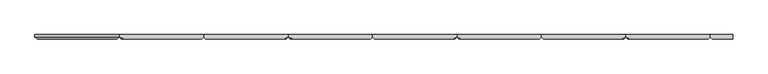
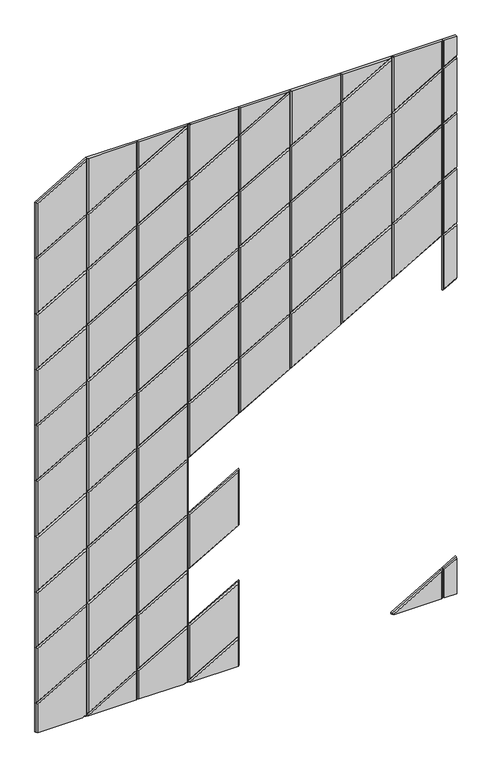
"""IFC4 building model written with IfcOpenShell, lengths in millimetres: proxy geometry, Wall_Cissu 6.3dm."""

from ifc_helpers import new_model, si_unit, origin, place, context, project, spatial, faceted_brep, source, transform, mapped, element, save


def generic_models_af10a0f3(model_context):
    return source(origin(), model_context, "Body", "Brep", [
        faceted_brep([(8762.0, 6.0, 0.0), (8697.7399825, 6.0, 0.0), (8697.7399825, 6.0, 145.7), (8762.0, 6.0, 182.8005384), (8697.7399825, 0.0, 0.0), (8697.7399825, 0.0, 145.7), (8762.0, 0.0, 182.8005384), (8703.7399825, -6.0, 0.0), (8762.0, -6.0, 0.0), (8762.0, -6.0, 175.8723351), (8703.7399825, -6.0, 142.2358984)], [[[0, 1, 2, 3]], [[1, 4, 5, 2]], [[6, 3, 2, 5]], [[7, 8, 9, 10]], [[4, 7, 10, 5]], [[9, 6, 5, 10]], [[7, 4, 1, 0, 8]], [[0, 3, 6, 9, 8]]]),
        faceted_brep([(8455.7724847, 6.0, 0.0), (8455.7724847, 6.0, 6.0), (8697.7399825, 6.0, 145.7), (8697.7399825, 6.0, 0.0), (8455.7724847, 0.0, 0.0), (8455.7724847, 0.0, 6.0), (8697.7399825, 0.0, 0.0), (8697.7399825, 0.0, 145.7), (8461.7724847, -6.0, 0.0), (8691.7399825, -6.0, 0.0), (8691.7399825, -6.0, 135.3076952), (8461.7724847, -6.0, 2.5358984)], [[[0, 1, 2, 3]], [[0, 4, 5, 1]], [[6, 3, 2, 7]], [[7, 2, 1, 5]], [[8, 9, 10, 11]], [[4, 8, 11, 5]], [[9, 6, 7, 10]], [[7, 5, 11, 10]], [[0, 3, 6, 9, 8, 4]]]),
        faceted_brep([(6762.0, 6.0, 1542.7), (7003.9674978, 6.0, 1682.4), (7003.9674978, 6.0, 1403.0), (6762.0, 6.0, 1263.3), (6762.0, 0.0, 1263.3), (7003.9674978, 0.0, 1403.0), (7003.9674978, 0.0, 1682.4), (6762.0, 0.0, 1542.7), (6997.9674978, -6.0, 1406.4641016), (6997.9674978, -6.0, 1672.0076952), (6768.0, -6.0, 1539.2358984), (6768.0, -6.0, 1273.6923048)], [[[0, 1, 2, 3]], [[4, 3, 2, 5]], [[5, 2, 1, 6]], [[6, 1, 0, 7]], [[8, 9, 10, 11]], [[7, 4, 11, 10]], [[4, 5, 8, 11]], [[5, 6, 9, 8]], [[6, 7, 10, 9]], [[0, 3, 4, 7]]]),
        faceted_brep([(6762.0, 6.0, 1263.3), (7003.9674978, 6.0, 1403.0), (7003.9674978, 6.0, 1123.6), (6762.0, 6.0, 983.9), (6762.0, 0.0, 983.9), (7003.9674978, 0.0, 1123.6), (7003.9674978, 0.0, 1403.0), (6762.0, 0.0, 1263.3), (6997.9674978, -6.0, 1127.0641016), (6997.9674978, -6.0, 1392.6076952), (6768.0, -6.0, 1259.8358984), (6768.0, -6.0, 994.2923048)], [[[0, 1, 2, 3]], [[4, 3, 2, 5]], [[5, 2, 1, 6]], [[6, 1, 0, 7]], [[8, 9, 10, 11]], [[7, 4, 11, 10]], [[4, 5, 8, 11]], [[5, 6, 9, 8]], [[6, 7, 10, 9]], [[0, 3, 4, 7]]]),
        faceted_brep([(7003.9674978, 6.0, 1123.6), (7245.9349956, 6.0, 1263.3), (7245.9349956, 6.0, 983.9), (7003.9674978, 6.0, 844.2), (7003.9674978, 0.0, 1123.6), (7003.9674978, 0.0, 844.2), (7245.9349956, 0.0, 983.9), (7245.9349956, 0.0, 1263.3), (7239.9349956, -6.0, 987.3641016), (7239.9349956, -6.0, 1252.9076952), (7009.9674978, -6.0, 1120.1358984), (7009.9674978, -6.0, 854.5923048)], [[[0, 1, 2, 3]], [[4, 0, 3, 5]], [[5, 3, 2, 6]], [[6, 2, 1, 7]], [[7, 1, 0, 4]], [[8, 9, 10, 11]], [[4, 5, 11, 10]], [[5, 6, 8, 11]], [[6, 7, 9, 8]], [[7, 4, 10, 9]]]),
        faceted_brep([(6762.0, 6.0, 983.9), (7003.9674978, 6.0, 1123.6), (7003.9674978, 6.0, 844.2), (6762.0, 6.0, 704.5), (6762.0, 0.0, 704.5), (7003.9674978, 0.0, 844.2), (7003.9674978, 0.0, 1123.6), (6762.0, 0.0, 983.9), (6997.9674978, -6.0, 847.6641016), (6997.9674978, -6.0, 1113.2076952), (6768.0, -6.0, 980.4358984), (6768.0, -6.0, 714.8923048)], [[[0, 1, 2, 3]], [[4, 3, 2, 5]], [[5, 2, 1, 6]], [[6, 1, 0, 7]], [[8, 9, 10, 11]], [[7, 4, 11, 10]], [[4, 5, 8, 11]], [[5, 6, 9, 8]], [[6, 7, 10, 9]], [[0, 3, 4, 7]]]),
        faceted_brep([(7245.9349956, 6.0, 704.5), (7487.9024935, 6.0, 844.2), (7487.9024935, 6.0, 564.8), (7245.9349956, 6.0, 425.1), (7245.9349956, 0.0, 704.5), (7245.9349956, 0.0, 425.1), (7487.9024935, 0.0, 564.8), (7487.9024935, 0.0, 844.2), (7481.9024935, -6.0, 568.2641016), (7481.9024935, -6.0, 833.8076952), (7251.9349956, -6.0, 701.0358984), (7251.9349956, -6.0, 435.4923048)], [[[0, 1, 2, 3]], [[4, 0, 3, 5]], [[5, 3, 2, 6]], [[6, 2, 1, 7]], [[7, 1, 0, 4]], [[8, 9, 10, 11]], [[4, 5, 11, 10]], [[5, 6, 8, 11]], [[6, 7, 9, 8]], [[7, 4, 10, 9]]]),
        faceted_brep([(7003.9674978, 6.0, 564.8), (7245.9349956, 6.0, 704.5), (7245.9349956, 6.0, 425.1), (7003.9674978, 6.0, 285.4), (7003.9674978, 0.0, 564.8), (7003.9674978, 0.0, 285.4), (7245.9349956, 0.0, 425.1), (7245.9349956, 0.0, 704.5), (7239.9349956, -6.0, 428.5641016), (7239.9349956, -6.0, 694.1076952), (7009.9674978, -6.0, 561.3358984), (7009.9674978, -6.0, 295.7923048)], [[[0, 1, 2, 3]], [[4, 0, 3, 5]], [[5, 3, 2, 6]], [[6, 2, 1, 7]], [[7, 1, 0, 4]], [[8, 9, 10, 11]], [[4, 5, 11, 10]], [[5, 6, 8, 11]], [[6, 7, 9, 8]], [[7, 4, 10, 9]]]),
        faceted_brep([(6762.0, 6.0, 425.1), (7003.9674978, 6.0, 564.8), (7003.9674978, 6.0, 285.4), (6762.0, 6.0, 145.7), (6762.0, 0.0, 145.7), (7003.9674978, 0.0, 285.4), (7003.9674978, 0.0, 564.8), (6762.0, 0.0, 425.1), (6997.9674978, -6.0, 288.8641016), (6997.9674978, -6.0, 554.4076952), (6768.0, -6.0, 421.6358984), (6768.0, -6.0, 156.0923048)], [[[0, 1, 2, 3]], [[4, 3, 2, 5]], [[5, 2, 1, 6]], [[6, 1, 0, 7]], [[8, 9, 10, 11]], [[7, 4, 11, 10]], [[4, 5, 8, 11]], [[5, 6, 9, 8]], [[6, 7, 10, 9]], [[0, 3, 4, 7]]]),
        faceted_brep([(7003.9674978, 6.0, 844.2), (7245.9349956, 6.0, 983.9), (7245.9349956, 6.0, 704.5), (7003.9674978, 6.0, 564.8), (7003.9674978, 0.0, 844.2), (7003.9674978, 0.0, 564.8), (7245.9349956, 0.0, 704.5), (7245.9349956, 0.0, 983.9), (7239.9349956, -6.0, 707.9641016), (7239.9349956, -6.0, 973.5076952), (7009.9674978, -6.0, 840.7358984), (7009.9674978, -6.0, 575.1923048)], [[[0, 1, 2, 3]], [[4, 0, 3, 5]], [[5, 3, 2, 6]], [[6, 2, 1, 7]], [[7, 1, 0, 4]], [[8, 9, 10, 11]], [[4, 5, 11, 10]], [[5, 6, 8, 11]], [[6, 7, 9, 8]], [[7, 4, 10, 9]]]),
        faceted_brep([(6762.0, 6.0, 704.5), (7003.9674978, 6.0, 844.2), (7003.9674978, 6.0, 564.8), (6762.0, 6.0, 425.1), (6762.0, 0.0, 425.1), (7003.9674978, 0.0, 564.8), (7003.9674978, 0.0, 844.2), (6762.0, 0.0, 704.5), (6997.9674978, -6.0, 568.2641016), (6997.9674978, -6.0, 833.8076952), (6768.0, -6.0, 701.0358984), (6768.0, -6.0, 435.4923048)], [[[0, 1, 2, 3]], [[4, 3, 2, 5]], [[5, 2, 1, 6]], [[6, 1, 0, 7]], [[8, 9, 10, 11]], [[7, 4, 11, 10]], [[4, 5, 8, 11]], [[5, 6, 9, 8]], [[6, 7, 10, 9]], [[0, 3, 4, 7]]]),
        faceted_brep([(7487.9024935, 6.0, 285.4), (7729.8699913, 6.0, 425.1), (7729.8699913, 6.0, 145.7), (7487.9024935, 6.0, 6.0), (7487.9024935, 0.0, 285.4), (7487.9024935, 0.0, 6.0), (7729.8699913, 0.0, 145.7), (7729.8699913, 0.0, 425.1), (7723.8699913, -6.0, 149.1641016), (7723.8699913, -6.0, 414.7076952), (7493.9024935, -6.0, 281.9358984), (7493.9024935, -6.0, 16.3923048)], [[[0, 1, 2, 3]], [[4, 0, 3, 5]], [[5, 3, 2, 6]], [[6, 2, 1, 7]], [[7, 1, 0, 4]], [[8, 9, 10, 11]], [[4, 5, 11, 10]], [[5, 6, 8, 11]], [[6, 7, 9, 8]], [[7, 4, 10, 9]]]),
        faceted_brep([(7245.9349956, 6.0, 0.0), (7245.9349956, 6.0, 145.7), (7487.9024935, 6.0, 285.4), (7487.9024935, 6.0, 6.0), (7477.5101886, 6.0, 0.0), (7245.9349956, 0.0, 0.0), (7245.9349956, 0.0, 145.7), (7477.5101886, 0.0, 0.0), (7487.9024935, 0.0, 6.0), (7487.9024935, 0.0, 285.4), (7251.9349956, -6.0, 0.0), (7465.5101886, -6.0, 0.0), (7481.9024935, -6.0, 9.4641016), (7481.9024935, -6.0, 275.0076952), (7251.9349956, -6.0, 142.2358984)], [[[0, 1, 2, 3, 4]], [[0, 5, 6, 1]], [[7, 4, 3, 8]], [[8, 3, 2, 9]], [[9, 2, 1, 6]], [[10, 11, 12, 13, 14]], [[5, 10, 14, 6]], [[11, 7, 8, 12]], [[8, 9, 13, 12]], [[9, 6, 14, 13]], [[0, 4, 7, 11, 10, 5]]]),
        faceted_brep([(7003.9674978, 6.0, 0.0), (7003.9674978, 6.0, 6.0), (7245.9349956, 6.0, 145.7), (7245.9349956, 6.0, 0.0), (7003.9674978, 0.0, 0.0), (7003.9674978, 0.0, 6.0), (7245.9349956, 0.0, 0.0), (7245.9349956, 0.0, 145.7), (7009.9674978, -6.0, 0.0), (7239.9349956, -6.0, 0.0), (7239.9349956, -6.0, 135.3076952), (7009.9674978, -6.0, 2.5358984)], [[[0, 1, 2, 3]], [[0, 4, 5, 1]], [[6, 3, 2, 7]], [[7, 2, 1, 5]], [[8, 9, 10, 11]], [[4, 8, 11, 5]], [[9, 6, 7, 10]], [[7, 5, 11, 10]], [[0, 3, 6, 9, 8, 4]]]),
        faceted_brep([(6993.575193, 6.0, 0.0), (7003.9674978, 6.0, 6.0), (7003.9674978, 6.0, 0.0), (7003.9674978, 0.0, 0.0), (7003.9674978, 0.0, 6.0), (6993.575193, 0.0, 0.0), (7000.5033962, -3.4641016, 0.0)], [[[0, 1, 2]], [[3, 2, 1, 4]], [[0, 5, 4, 1]], [[6, 3, 4]], [[5, 6, 4]], [[0, 2, 3, 6, 5]]]),
        faceted_brep([(7245.9349956, 6.0, 425.1), (7487.9024935, 6.0, 564.8), (7487.9024935, 6.0, 285.4), (7245.9349956, 6.0, 145.7), (7245.9349956, 0.0, 425.1), (7245.9349956, 0.0, 145.7), (7487.9024935, 0.0, 285.4), (7487.9024935, 0.0, 564.8), (7481.9024935, -6.0, 288.8641016), (7481.9024935, -6.0, 554.4076952), (7251.9349956, -6.0, 421.6358984), (7251.9349956, -6.0, 156.0923048)], [[[0, 1, 2, 3]], [[4, 0, 3, 5]], [[5, 3, 2, 6]], [[6, 2, 1, 7]], [[7, 1, 0, 4]], [[8, 9, 10, 11]], [[4, 5, 11, 10]], [[5, 6, 8, 11]], [[6, 7, 9, 8]], [[7, 4, 10, 9]]]),
        faceted_brep([(7003.9674978, 6.0, 285.4), (7245.9349956, 6.0, 425.1), (7245.9349956, 6.0, 145.7), (7003.9674978, 6.0, 6.0), (7003.9674978, 0.0, 285.4), (7003.9674978, 0.0, 6.0), (7245.9349956, 0.0, 145.7), (7245.9349956, 0.0, 425.1), (7239.9349956, -6.0, 149.1641016), (7239.9349956, -6.0, 414.7076952), (7009.9674978, -6.0, 281.9358984), (7009.9674978, -6.0, 16.3923048)], [[[0, 1, 2, 3]], [[4, 0, 3, 5]], [[5, 3, 2, 6]], [[6, 2, 1, 7]], [[7, 1, 0, 4]], [[8, 9, 10, 11]], [[4, 5, 11, 10]], [[5, 6, 8, 11]], [[6, 7, 9, 8]], [[7, 4, 10, 9]]]),
        faceted_brep([(6762.0, 6.0, 0.0), (6762.0, 6.0, 145.7), (7003.9674978, 6.0, 285.4), (7003.9674978, 6.0, 6.0), (6993.575193, 6.0, 0.0), (6993.575193, 0.0, 0.0), (7003.9674978, 0.0, 6.0), (7003.9674978, 0.0, 285.4), (6762.0, 0.0, 145.7), (6768.0, -6.0, 0.0), (6981.575193, -6.0, 0.0), (6997.9674978, -6.0, 9.4641016), (6997.9674978, -6.0, 275.0076952), (6768.0, -6.0, 142.2358984), (6762.0, 0.0, 0.0)], [[[0, 1, 2, 3, 4]], [[5, 4, 3, 6]], [[6, 3, 2, 7]], [[7, 2, 1, 8]], [[9, 10, 11, 12, 13]], [[14, 9, 13, 8]], [[10, 5, 6, 11]], [[6, 7, 12, 11]], [[7, 8, 13, 12]], [[9, 14, 0, 4, 5, 10]], [[1, 0, 14, 8]]]),
        faceted_brep([(7487.9024935, 6.0, 0.0), (7487.9024935, 6.0, 6.0), (7729.8699913, 6.0, 145.7), (7729.8699913, 6.0, 0.0), (7487.9024935, 0.0, 0.0), (7487.9024935, 0.0, 6.0), (7729.8699913, 0.0, 0.0), (7729.8699913, 0.0, 145.7), (7493.9024935, -6.0, 0.0), (7723.8699913, -6.0, 0.0), (7723.8699913, -6.0, 135.3076952), (7493.9024935, -6.0, 2.5358984)], [[[0, 1, 2, 3]], [[0, 4, 5, 1]], [[6, 3, 2, 7]], [[7, 2, 1, 5]], [[8, 9, 10, 11]], [[4, 8, 11, 5]], [[9, 6, 7, 10]], [[7, 5, 11, 10]], [[0, 3, 6, 9, 8, 4]]]),
        faceted_brep([(7477.5101886, 6.0, 0.0), (7487.9024935, 6.0, 6.0), (7487.9024935, 6.0, 0.0), (7487.9024935, 0.0, 0.0), (7487.9024935, 0.0, 6.0), (7477.5101886, 0.0, 0.0), (7484.4383918, -3.4641016, 0.0)], [[[0, 1, 2]], [[3, 2, 1, 4]], [[0, 5, 4, 1]], [[6, 3, 4]], [[5, 6, 4]], [[0, 2, 3, 6, 5]]]),
        faceted_brep([(8762.0, 6.0, 2697.4005384), (8697.7399825, 6.0, 2660.3), (8697.7399825, 6.0, 2800.0), (8762.0, 6.0, 2800.0), (8762.0, 0.0, 2697.4005384), (8697.7399825, 0.0, 2660.3), (8762.0, -6.0, 2704.3287416), (8703.7399825, -6.0, 2670.6923048), (8703.7399825, -6.0, 2800.0), (8762.0, -6.0, 2800.0), (8697.7399825, 0.0, 2800.0)], [[[0, 1, 2, 3]], [[0, 4, 5, 1]], [[4, 6, 7, 5]], [[8, 9, 3, 2, 10]], [[2, 1, 5, 10]], [[8, 7, 6, 9]], [[10, 5, 7, 8]], [[0, 3, 9, 6, 4]]]),
        faceted_brep([(8455.7724847, 0.0, 2800.0), (8455.7724847, 6.0, 2800.0), (8455.7724847, 6.0, 2520.6), (8455.7724847, 0.0, 2520.6), (8697.7399825, 6.0, 2660.3), (8697.7399825, 0.0, 2660.3), (8461.7724847, -6.0, 2530.9923048), (8461.7724847, -6.0, 2796.5358984), (8691.7399825, -6.0, 2663.7641016), (8697.7399825, 6.0, 2800.0), (8697.7399825, 0.0, 2800.0), (8467.7724847, -6.0, 2800.0), (8691.7399825, -6.0, 2800.0)], [[[0, 1, 2, 3]], [[3, 2, 4, 5]], [[0, 3, 6, 7]], [[3, 5, 8, 6]], [[1, 9, 4, 2]], [[10, 5, 4, 9]], [[11, 7, 6, 8, 12]], [[12, 8, 5, 10]], [[0, 7, 11]], [[1, 0, 11, 12, 10, 9]]]),
        faceted_brep([(8213.8049869, 6.0, 2660.3), (8455.7724847, 6.0, 2800.0), (8455.7724847, 6.0, 2520.6), (8213.8049869, 6.0, 2380.9), (8213.8049869, 0.0, 2660.3), (8213.8049869, 0.0, 2380.9), (8455.7724847, 0.0, 2520.6), (8455.7724847, 0.0, 2800.0), (8449.7724847, -6.0, 2524.0641016), (8449.7724847, -6.0, 2789.6076952), (8219.8049869, -6.0, 2656.8358984), (8219.8049869, -6.0, 2391.2923048)], [[[0, 1, 2, 3]], [[4, 0, 3, 5]], [[5, 3, 2, 6]], [[6, 2, 1, 7]], [[7, 1, 0, 4]], [[8, 9, 10, 11]], [[4, 5, 11, 10]], [[5, 6, 8, 11]], [[6, 7, 9, 8]], [[7, 4, 10, 9]]]),
        faceted_brep([(8213.8049869, 0.0, 2660.3), (8213.8049869, 6.0, 2660.3), (8455.7724847, 6.0, 2800.0), (8455.7724847, 0.0, 2800.0), (8213.8049869, 6.0, 2800.0), (8213.8049869, 0.0, 2800.0), (8219.8049869, -6.0, 2800.0), (8219.8049869, -6.0, 2670.6923048), (8443.7724847, -6.0, 2800.0)], [[[0, 1, 2, 3]], [[4, 2, 1]], [[4, 1, 0, 5]], [[6, 7, 8]], [[5, 0, 7, 6]], [[8, 7, 0, 3]], [[4, 5, 6, 8, 3, 2]]]),
        faceted_brep([(8762.0, 6.0, 2138.6005384), (8697.7399825, 6.0, 2101.5), (8697.7399825, 6.0, 2380.9), (8762.0, 6.0, 2418.0005384), (8697.7399825, 0.0, 2380.9), (8697.7399825, 0.0, 2101.5), (8762.0, 0.0, 2138.6005384), (8762.0, 0.0, 2418.0005384), (8762.0, -6.0, 2145.5287416), (8762.0, -6.0, 2411.0723351), (8703.7399825, -6.0, 2377.4358984), (8703.7399825, -6.0, 2111.8923048)], [[[0, 1, 2, 3]], [[4, 2, 1, 5]], [[0, 6, 5, 1]], [[7, 3, 2, 4]], [[8, 9, 10, 11]], [[4, 5, 11, 10]], [[6, 8, 11, 5]], [[9, 7, 4, 10]], [[0, 3, 7, 9, 8, 6]]]),
        faceted_brep([(8455.7724847, 6.0, 2241.2), (8697.7399825, 6.0, 2380.9), (8697.7399825, 6.0, 2101.5), (8455.7724847, 6.0, 1961.8), (8455.7724847, 0.0, 2241.2), (8455.7724847, 0.0, 1961.8), (8697.7399825, 0.0, 2101.5), (8697.7399825, 0.0, 2380.9), (8691.7399825, -6.0, 2104.9641016), (8691.7399825, -6.0, 2370.5076952), (8461.7724847, -6.0, 2237.7358984), (8461.7724847, -6.0, 1972.1923048)], [[[0, 1, 2, 3]], [[4, 0, 3, 5]], [[5, 3, 2, 6]], [[6, 2, 1, 7]], [[7, 1, 0, 4]], [[8, 9, 10, 11]], [[4, 5, 11, 10]], [[5, 6, 8, 11]], [[6, 7, 9, 8]], [[7, 4, 10, 9]]]),
        faceted_brep([(8762.0, 6.0, 2418.0005384), (8697.7399825, 6.0, 2380.9), (8697.7399825, 6.0, 2660.3), (8762.0, 6.0, 2697.4005384), (8697.7399825, 0.0, 2660.3), (8697.7399825, 0.0, 2380.9), (8762.0, 0.0, 2418.0005384), (8762.0, 0.0, 2697.4005384), (8762.0, -6.0, 2424.9287416), (8762.0, -6.0, 2690.4723351), (8703.7399825, -6.0, 2656.8358984), (8703.7399825, -6.0, 2391.2923048)], [[[0, 1, 2, 3]], [[4, 2, 1, 5]], [[0, 6, 5, 1]], [[7, 3, 2, 4]], [[8, 9, 10, 11]], [[4, 5, 11, 10]], [[6, 8, 11, 5]], [[9, 7, 4, 10]], [[0, 3, 7, 9, 8, 6]]]),
        faceted_brep([(8455.7724847, 6.0, 2520.6), (8697.7399825, 6.0, 2660.3), (8697.7399825, 6.0, 2380.9), (8455.7724847, 6.0, 2241.2), (8455.7724847, 0.0, 2520.6), (8455.7724847, 0.0, 2241.2), (8697.7399825, 0.0, 2380.9), (8697.7399825, 0.0, 2660.3), (8691.7399825, -6.0, 2384.3641016), (8691.7399825, -6.0, 2649.9076952), (8461.7724847, -6.0, 2517.1358984), (8461.7724847, -6.0, 2251.5923048)], [[[0, 1, 2, 3]], [[4, 0, 3, 5]], [[5, 3, 2, 6]], [[6, 2, 1, 7]], [[7, 1, 0, 4]], [[8, 9, 10, 11]], [[4, 5, 11, 10]], [[5, 6, 8, 11]], [[6, 7, 9, 8]], [[7, 4, 10, 9]]]),
        faceted_brep([(8762.0, 6.0, 1579.8005384), (8697.7399825, 6.0, 1542.7), (8697.7399825, 6.0, 1822.1), (8762.0, 6.0, 1859.2005384), (8697.7399825, 0.0, 1822.1), (8697.7399825, 0.0, 1542.7), (8762.0, 0.0, 1579.8005384), (8762.0, 0.0, 1859.2005384), (8762.0, -6.0, 1586.7287416), (8762.0, -6.0, 1852.2723351), (8703.7399825, -6.0, 1818.6358984), (8703.7399825, -6.0, 1553.0923048)], [[[0, 1, 2, 3]], [[4, 2, 1, 5]], [[0, 6, 5, 1]], [[7, 3, 2, 4]], [[8, 9, 10, 11]], [[4, 5, 11, 10]], [[6, 8, 11, 5]], [[9, 7, 4, 10]], [[0, 3, 7, 9, 8, 6]]]),
        faceted_brep([(8762.0, 6.0, 1859.2005384), (8697.7399825, 6.0, 1822.1), (8697.7399825, 6.0, 2101.5), (8762.0, 6.0, 2138.6005384), (8697.7399825, 0.0, 2101.5), (8697.7399825, 0.0, 1822.1), (8762.0, 0.0, 1859.2005384), (8762.0, 0.0, 2138.6005384), (8762.0, -6.0, 1866.1287416), (8762.0, -6.0, 2131.6723351), (8703.7399825, -6.0, 2098.0358984), (8703.7399825, -6.0, 1832.4923048)], [[[0, 1, 2, 3]], [[4, 2, 1, 5]], [[0, 6, 5, 1]], [[7, 3, 2, 4]], [[8, 9, 10, 11]], [[4, 5, 11, 10]], [[6, 8, 11, 5]], [[9, 7, 4, 10]], [[0, 3, 7, 9, 8, 6]]]),
        faceted_brep([(6762.0, 6.0, 2660.3), (7003.9674978, 6.0, 2800.0), (7003.9674978, 6.0, 2520.6), (6762.0, 6.0, 2380.9), (6762.0, 0.0, 2380.9), (7003.9674978, 0.0, 2520.6), (7003.9674978, 0.0, 2800.0), (6762.0, 0.0, 2660.3), (6997.9674978, -6.0, 2524.0641016), (6997.9674978, -6.0, 2789.6076952), (6768.0, -6.0, 2656.8358984), (6768.0, -6.0, 2391.2923048)], [[[0, 1, 2, 3]], [[4, 3, 2, 5]], [[5, 2, 1, 6]], [[6, 1, 0, 7]], [[8, 9, 10, 11]], [[7, 4, 11, 10]], [[4, 5, 8, 11]], [[5, 6, 9, 8]], [[6, 7, 10, 9]], [[0, 3, 4, 7]]]),
        faceted_brep([(7003.9674978, 0.0, 2800.0), (7003.9674978, 6.0, 2800.0), (7003.9674978, 6.0, 2520.6), (7003.9674978, 0.0, 2520.6), (7245.9349956, 6.0, 2660.3), (7245.9349956, 0.0, 2660.3), (7009.9674978, -6.0, 2530.9923048), (7009.9674978, -6.0, 2796.5358984), (7239.9349956, -6.0, 2663.7641016), (7245.9349956, 6.0, 2800.0), (7245.9349956, 0.0, 2800.0), (7015.9674978, -6.0, 2800.0), (7239.9349956, -6.0, 2800.0)], [[[0, 1, 2, 3]], [[3, 2, 4, 5]], [[0, 3, 6, 7]], [[3, 5, 8, 6]], [[1, 9, 4, 2]], [[10, 5, 4, 9]], [[11, 7, 6, 8, 12]], [[12, 8, 5, 10]], [[0, 7, 11]], [[1, 0, 11, 12, 10, 9]]]),
        faceted_brep([(7245.9349956, 0.0, 2660.3), (7245.9349956, 6.0, 2660.3), (7487.9024935, 6.0, 2800.0), (7487.9024935, 0.0, 2800.0), (7245.9349956, 6.0, 2800.0), (7245.9349956, 0.0, 2800.0), (7251.9349956, -6.0, 2800.0), (7251.9349956, -6.0, 2670.6923048), (7475.9024935, -6.0, 2800.0)], [[[0, 1, 2, 3]], [[4, 2, 1]], [[4, 1, 0, 5]], [[6, 7, 8]], [[5, 0, 7, 6]], [[8, 7, 0, 3]], [[4, 5, 6, 8, 3, 2]]]),
        faceted_brep([(6762.0, 6.0, 2380.9), (7003.9674978, 6.0, 2520.6), (7003.9674978, 6.0, 2241.2), (6762.0, 6.0, 2101.5), (6762.0, 0.0, 2101.5), (7003.9674978, 0.0, 2241.2), (7003.9674978, 0.0, 2520.6), (6762.0, 0.0, 2380.9), (6997.9674978, -6.0, 2244.6641016), (6997.9674978, -6.0, 2510.2076952), (6768.0, -6.0, 2377.4358984), (6768.0, -6.0, 2111.8923048)], [[[0, 1, 2, 3]], [[4, 3, 2, 5]], [[5, 2, 1, 6]], [[6, 1, 0, 7]], [[8, 9, 10, 11]], [[7, 4, 11, 10]], [[4, 5, 8, 11]], [[5, 6, 9, 8]], [[6, 7, 10, 9]], [[0, 3, 4, 7]]]),
        faceted_brep([(7003.9674978, 6.0, 2520.6), (7245.9349956, 6.0, 2660.3), (7245.9349956, 6.0, 2380.9), (7003.9674978, 6.0, 2241.2), (7003.9674978, 0.0, 2520.6), (7003.9674978, 0.0, 2241.2), (7245.9349956, 0.0, 2380.9), (7245.9349956, 0.0, 2660.3), (7239.9349956, -6.0, 2384.3641016), (7239.9349956, -6.0, 2649.9076952), (7009.9674978, -6.0, 2517.1358984), (7009.9674978, -6.0, 2251.5923048)], [[[0, 1, 2, 3]], [[4, 0, 3, 5]], [[5, 3, 2, 6]], [[6, 2, 1, 7]], [[7, 1, 0, 4]], [[8, 9, 10, 11]], [[4, 5, 11, 10]], [[5, 6, 8, 11]], [[6, 7, 9, 8]], [[7, 4, 10, 9]]]),
        faceted_brep([(7729.8699913, 0.0, 2660.3), (7729.8699913, 6.0, 2660.3), (7971.8374891, 6.0, 2800.0), (7971.8374891, 0.0, 2800.0), (7729.8699913, 6.0, 2800.0), (7729.8699913, 0.0, 2800.0), (7735.8699913, -6.0, 2800.0), (7735.8699913, -6.0, 2670.6923048), (7959.8374891, -6.0, 2800.0)], [[[0, 1, 2, 3]], [[4, 2, 1]], [[4, 1, 0, 5]], [[6, 7, 8]], [[5, 0, 7, 6]], [[8, 7, 0, 3]], [[4, 5, 6, 8, 3, 2]]]),
        faceted_brep([(7487.9024935, 0.0, 2800.0), (7487.9024935, 6.0, 2800.0), (7487.9024935, 6.0, 2520.6), (7487.9024935, 0.0, 2520.6), (7729.8699913, 6.0, 2660.3), (7729.8699913, 0.0, 2660.3), (7493.9024935, -6.0, 2530.9923048), (7493.9024935, -6.0, 2796.5358984), (7723.8699913, -6.0, 2663.7641016), (7729.8699913, 6.0, 2800.0), (7729.8699913, 0.0, 2800.0), (7499.9024935, -6.0, 2800.0), (7723.8699913, -6.0, 2800.0)], [[[0, 1, 2, 3]], [[3, 2, 4, 5]], [[0, 3, 6, 7]], [[3, 5, 8, 6]], [[1, 9, 4, 2]], [[10, 5, 4, 9]], [[11, 7, 6, 8, 12]], [[12, 8, 5, 10]], [[0, 7, 11]], [[1, 0, 11, 12, 10, 9]]]),
        faceted_brep([(7245.9349956, 6.0, 2660.3), (7487.9024935, 6.0, 2800.0), (7487.9024935, 6.0, 2520.6), (7245.9349956, 6.0, 2380.9), (7245.9349956, 0.0, 2660.3), (7245.9349956, 0.0, 2380.9), (7487.9024935, 0.0, 2520.6), (7487.9024935, 0.0, 2800.0), (7481.9024935, -6.0, 2524.0641016), (7481.9024935, -6.0, 2789.6076952), (7251.9349956, -6.0, 2656.8358984), (7251.9349956, -6.0, 2391.2923048)], [[[0, 1, 2, 3]], [[4, 0, 3, 5]], [[5, 3, 2, 6]], [[6, 2, 1, 7]], [[7, 1, 0, 4]], [[8, 9, 10, 11]], [[4, 5, 11, 10]], [[5, 6, 8, 11]], [[6, 7, 9, 8]], [[7, 4, 10, 9]]]),
        faceted_brep([(6762.0, 6.0, 2101.5), (7003.9674978, 6.0, 2241.2), (7003.9674978, 6.0, 1961.8), (6762.0, 6.0, 1822.1), (6762.0, 0.0, 1822.1), (7003.9674978, 0.0, 1961.8), (7003.9674978, 0.0, 2241.2), (6762.0, 0.0, 2101.5), (6997.9674978, -6.0, 1965.2641016), (6997.9674978, -6.0, 2230.8076952), (6768.0, -6.0, 2098.0358984), (6768.0, -6.0, 1832.4923048)], [[[0, 1, 2, 3]], [[4, 3, 2, 5]], [[5, 2, 1, 6]], [[6, 1, 0, 7]], [[8, 9, 10, 11]], [[7, 4, 11, 10]], [[4, 5, 8, 11]], [[5, 6, 9, 8]], [[6, 7, 10, 9]], [[0, 3, 4, 7]]]),
        faceted_brep([(7003.9674978, 6.0, 2241.2), (7245.9349956, 6.0, 2380.9), (7245.9349956, 6.0, 2101.5), (7003.9674978, 6.0, 1961.8), (7003.9674978, 0.0, 2241.2), (7003.9674978, 0.0, 1961.8), (7245.9349956, 0.0, 2101.5), (7245.9349956, 0.0, 2380.9), (7239.9349956, -6.0, 2104.9641016), (7239.9349956, -6.0, 2370.5076952), (7009.9674978, -6.0, 2237.7358984), (7009.9674978, -6.0, 1972.1923048)], [[[0, 1, 2, 3]], [[4, 0, 3, 5]], [[5, 3, 2, 6]], [[6, 2, 1, 7]], [[7, 1, 0, 4]], [[8, 9, 10, 11]], [[4, 5, 11, 10]], [[5, 6, 8, 11]], [[6, 7, 9, 8]], [[7, 4, 10, 9]]]),
        faceted_brep([(7971.8374891, 0.0, 2800.0), (7971.8374891, 6.0, 2800.0), (7971.8374891, 6.0, 2520.6), (7971.8374891, 0.0, 2520.6), (8213.8049869, 6.0, 2660.3), (8213.8049869, 0.0, 2660.3), (7977.8374891, -6.0, 2530.9923048), (7977.8374891, -6.0, 2796.5358984), (8207.8049869, -6.0, 2663.7641016), (8213.8049869, 6.0, 2800.0), (8213.8049869, 0.0, 2800.0), (7983.8374891, -6.0, 2800.0), (8207.8049869, -6.0, 2800.0)], [[[0, 1, 2, 3]], [[3, 2, 4, 5]], [[0, 3, 6, 7]], [[3, 5, 8, 6]], [[1, 9, 4, 2]], [[10, 5, 4, 9]], [[11, 7, 6, 8, 12]], [[12, 8, 5, 10]], [[0, 7, 11]], [[1, 0, 11, 12, 10, 9]]]),
        faceted_brep([(7729.8699913, 6.0, 2660.3), (7971.8374891, 6.0, 2800.0), (7971.8374891, 6.0, 2520.6), (7729.8699913, 6.0, 2380.9), (7729.8699913, 0.0, 2660.3), (7729.8699913, 0.0, 2380.9), (7971.8374891, 0.0, 2520.6), (7971.8374891, 0.0, 2800.0), (7965.8374891, -6.0, 2524.0641016), (7965.8374891, -6.0, 2789.6076952), (7735.8699913, -6.0, 2656.8358984), (7735.8699913, -6.0, 2391.2923048)], [[[0, 1, 2, 3]], [[4, 0, 3, 5]], [[5, 3, 2, 6]], [[6, 2, 1, 7]], [[7, 1, 0, 4]], [[8, 9, 10, 11]], [[4, 5, 11, 10]], [[5, 6, 8, 11]], [[6, 7, 9, 8]], [[7, 4, 10, 9]]]),
        faceted_brep([(7487.9024935, 6.0, 2520.6), (7729.8699913, 6.0, 2660.3), (7729.8699913, 6.0, 2380.9), (7487.9024935, 6.0, 2241.2), (7487.9024935, 0.0, 2520.6), (7487.9024935, 0.0, 2241.2), (7729.8699913, 0.0, 2380.9), (7729.8699913, 0.0, 2660.3), (7723.8699913, -6.0, 2384.3641016), (7723.8699913, -6.0, 2649.9076952), (7493.9024935, -6.0, 2517.1358984), (7493.9024935, -6.0, 2251.5923048)], [[[0, 1, 2, 3]], [[4, 0, 3, 5]], [[5, 3, 2, 6]], [[6, 2, 1, 7]], [[7, 1, 0, 4]], [[8, 9, 10, 11]], [[4, 5, 11, 10]], [[5, 6, 8, 11]], [[6, 7, 9, 8]], [[7, 4, 10, 9]]]),
        faceted_brep([(7245.9349956, 6.0, 2380.9), (7487.9024935, 6.0, 2520.6), (7487.9024935, 6.0, 2241.2), (7245.9349956, 6.0, 2101.5), (7245.9349956, 0.0, 2380.9), (7245.9349956, 0.0, 2101.5), (7487.9024935, 0.0, 2241.2), (7487.9024935, 0.0, 2520.6), (7481.9024935, -6.0, 2244.6641016), (7481.9024935, -6.0, 2510.2076952), (7251.9349956, -6.0, 2377.4358984), (7251.9349956, -6.0, 2111.8923048)], [[[0, 1, 2, 3]], [[4, 0, 3, 5]], [[5, 3, 2, 6]], [[6, 2, 1, 7]], [[7, 1, 0, 4]], [[8, 9, 10, 11]], [[4, 5, 11, 10]], [[5, 6, 8, 11]], [[6, 7, 9, 8]], [[7, 4, 10, 9]]]),
        faceted_brep([(6762.0, 6.0, 1822.1), (7003.9674978, 6.0, 1961.8), (7003.9674978, 6.0, 1682.4), (6762.0, 6.0, 1542.7), (6762.0, 0.0, 1542.7), (7003.9674978, 0.0, 1682.4), (7003.9674978, 0.0, 1961.8), (6762.0, 0.0, 1822.1), (6997.9674978, -6.0, 1685.8641016), (6997.9674978, -6.0, 1951.4076952), (6768.0, -6.0, 1818.6358984), (6768.0, -6.0, 1553.0923048)], [[[0, 1, 2, 3]], [[4, 3, 2, 5]], [[5, 2, 1, 6]], [[6, 1, 0, 7]], [[8, 9, 10, 11]], [[7, 4, 11, 10]], [[4, 5, 8, 11]], [[5, 6, 9, 8]], [[6, 7, 10, 9]], [[0, 3, 4, 7]]]),
        faceted_brep([(7003.9674978, 6.0, 1682.4), (7245.9349956, 6.0, 1822.1), (7245.9349956, 6.0, 1542.7), (7003.9674978, 6.0, 1403.0), (7003.9674978, 0.0, 1682.4), (7003.9674978, 0.0, 1403.0), (7245.9349956, 0.0, 1542.7), (7245.9349956, 0.0, 1822.1), (7239.9349956, -6.0, 1546.1641016), (7239.9349956, -6.0, 1811.7076952), (7009.9674978, -6.0, 1678.9358984), (7009.9674978, -6.0, 1413.3923048)], [[[0, 1, 2, 3]], [[4, 0, 3, 5]], [[5, 3, 2, 6]], [[6, 2, 1, 7]], [[7, 1, 0, 4]], [[8, 9, 10, 11]], [[4, 5, 11, 10]], [[5, 6, 8, 11]], [[6, 7, 9, 8]], [[7, 4, 10, 9]]]),
        faceted_brep([(8213.8049869, 6.0, 2380.9), (8455.7724847, 6.0, 2520.6), (8455.7724847, 6.0, 2241.2), (8213.8049869, 6.0, 2101.5), (8213.8049869, 0.0, 2380.9), (8213.8049869, 0.0, 2101.5), (8455.7724847, 0.0, 2241.2), (8455.7724847, 0.0, 2520.6), (8449.7724847, -6.0, 2244.6641016), (8449.7724847, -6.0, 2510.2076952), (8219.8049869, -6.0, 2377.4358984), (8219.8049869, -6.0, 2111.8923048)], [[[0, 1, 2, 3]], [[4, 0, 3, 5]], [[5, 3, 2, 6]], [[6, 2, 1, 7]], [[7, 1, 0, 4]], [[8, 9, 10, 11]], [[4, 5, 11, 10]], [[5, 6, 8, 11]], [[6, 7, 9, 8]], [[7, 4, 10, 9]]]),
        faceted_brep([(7971.8374891, 6.0, 2241.2), (8213.8049869, 6.0, 2380.9), (8213.8049869, 6.0, 2101.5), (7971.8374891, 6.0, 1961.8), (7971.8374891, 0.0, 2241.2), (7971.8374891, 0.0, 1961.8), (8213.8049869, 0.0, 2101.5), (8213.8049869, 0.0, 2380.9), (8207.8049869, -6.0, 2104.9641016), (8207.8049869, -6.0, 2370.5076952), (7977.8374891, -6.0, 2237.7358984), (7977.8374891, -6.0, 1972.1923048)], [[[0, 1, 2, 3]], [[4, 0, 3, 5]], [[5, 3, 2, 6]], [[6, 2, 1, 7]], [[7, 1, 0, 4]], [[8, 9, 10, 11]], [[4, 5, 11, 10]], [[5, 6, 8, 11]], [[6, 7, 9, 8]], [[7, 4, 10, 9]]]),
        faceted_brep([(7729.8699913, 6.0, 2101.5), (7971.8374891, 6.0, 2241.2), (7971.8374891, 6.0, 1961.8), (7729.8699913, 6.0, 1822.1), (7729.8699913, 0.0, 2101.5), (7729.8699913, 0.0, 1822.1), (7971.8374891, 0.0, 1961.8), (7971.8374891, 0.0, 2241.2), (7965.8374891, -6.0, 1965.2641016), (7965.8374891, -6.0, 2230.8076952), (7735.8699913, -6.0, 2098.0358984), (7735.8699913, -6.0, 1832.4923048)], [[[0, 1, 2, 3]], [[4, 0, 3, 5]], [[5, 3, 2, 6]], [[6, 2, 1, 7]], [[7, 1, 0, 4]], [[8, 9, 10, 11]], [[4, 5, 11, 10]], [[5, 6, 8, 11]], [[6, 7, 9, 8]], [[7, 4, 10, 9]]]),
        faceted_brep([(7487.9024935, 6.0, 1961.8), (7729.8699913, 6.0, 2101.5), (7729.8699913, 6.0, 1822.1), (7487.9024935, 6.0, 1682.4), (7487.9024935, 0.0, 1961.8), (7487.9024935, 0.0, 1682.4), (7729.8699913, 0.0, 1822.1), (7729.8699913, 0.0, 2101.5), (7723.8699913, -6.0, 1825.5641016), (7723.8699913, -6.0, 2091.1076952), (7493.9024935, -6.0, 1958.3358984), (7493.9024935, -6.0, 1692.7923048)], [[[0, 1, 2, 3]], [[4, 0, 3, 5]], [[5, 3, 2, 6]], [[6, 2, 1, 7]], [[7, 1, 0, 4]], [[8, 9, 10, 11]], [[4, 5, 11, 10]], [[5, 6, 8, 11]], [[6, 7, 9, 8]], [[7, 4, 10, 9]]]),
        faceted_brep([(7245.9349956, 6.0, 1822.1), (7487.9024935, 6.0, 1961.8), (7487.9024935, 6.0, 1682.4), (7245.9349956, 6.0, 1542.7), (7245.9349956, 0.0, 1822.1), (7245.9349956, 0.0, 1542.7), (7487.9024935, 0.0, 1682.4), (7487.9024935, 0.0, 1961.8), (7481.9024935, -6.0, 1685.8641016), (7481.9024935, -6.0, 1951.4076952), (7251.9349956, -6.0, 1818.6358984), (7251.9349956, -6.0, 1553.0923048)], [[[0, 1, 2, 3]], [[4, 0, 3, 5]], [[5, 3, 2, 6]], [[6, 2, 1, 7]], [[7, 1, 0, 4]], [[8, 9, 10, 11]], [[4, 5, 11, 10]], [[5, 6, 8, 11]], [[6, 7, 9, 8]], [[7, 4, 10, 9]]]),
        faceted_brep([(7003.9674978, 6.0, 1961.8), (7245.9349956, 6.0, 2101.5), (7245.9349956, 6.0, 1822.1), (7003.9674978, 6.0, 1682.4), (7003.9674978, 0.0, 1961.8), (7003.9674978, 0.0, 1682.4), (7245.9349956, 0.0, 1822.1), (7245.9349956, 0.0, 2101.5), (7239.9349956, -6.0, 1825.5641016), (7239.9349956, -6.0, 2091.1076952), (7009.9674978, -6.0, 1958.3358984), (7009.9674978, -6.0, 1692.7923048)], [[[0, 1, 2, 3]], [[4, 0, 3, 5]], [[5, 3, 2, 6]], [[6, 2, 1, 7]], [[7, 1, 0, 4]], [[8, 9, 10, 11]], [[4, 5, 11, 10]], [[5, 6, 8, 11]], [[6, 7, 9, 8]], [[7, 4, 10, 9]]]),
        faceted_brep([(7971.8374891, 6.0, 2520.6), (8213.8049869, 6.0, 2660.3), (8213.8049869, 6.0, 2380.9), (7971.8374891, 6.0, 2241.2), (7971.8374891, 0.0, 2520.6), (7971.8374891, 0.0, 2241.2), (8213.8049869, 0.0, 2380.9), (8213.8049869, 0.0, 2660.3), (8207.8049869, -6.0, 2384.3641016), (8207.8049869, -6.0, 2649.9076952), (7977.8374891, -6.0, 2517.1358984), (7977.8374891, -6.0, 2251.5923048)], [[[0, 1, 2, 3]], [[4, 0, 3, 5]], [[5, 3, 2, 6]], [[6, 2, 1, 7]], [[7, 1, 0, 4]], [[8, 9, 10, 11]], [[4, 5, 11, 10]], [[5, 6, 8, 11]], [[6, 7, 9, 8]], [[7, 4, 10, 9]]]),
        faceted_brep([(7729.8699913, 6.0, 2380.9), (7971.8374891, 6.0, 2520.6), (7971.8374891, 6.0, 2241.2), (7729.8699913, 6.0, 2101.5), (7729.8699913, 0.0, 2380.9), (7729.8699913, 0.0, 2101.5), (7971.8374891, 0.0, 2241.2), (7971.8374891, 0.0, 2520.6), (7965.8374891, -6.0, 2244.6641016), (7965.8374891, -6.0, 2510.2076952), (7735.8699913, -6.0, 2377.4358984), (7735.8699913, -6.0, 2111.8923048)], [[[0, 1, 2, 3]], [[4, 0, 3, 5]], [[5, 3, 2, 6]], [[6, 2, 1, 7]], [[7, 1, 0, 4]], [[8, 9, 10, 11]], [[4, 5, 11, 10]], [[5, 6, 8, 11]], [[6, 7, 9, 8]], [[7, 4, 10, 9]]]),
        faceted_brep([(7487.9024935, 6.0, 2241.2), (7729.8699913, 6.0, 2380.9), (7729.8699913, 6.0, 2101.5), (7487.9024935, 6.0, 1961.8), (7487.9024935, 0.0, 2241.2), (7487.9024935, 0.0, 1961.8), (7729.8699913, 0.0, 2101.5), (7729.8699913, 0.0, 2380.9), (7723.8699913, -6.0, 2104.9641016), (7723.8699913, -6.0, 2370.5076952), (7493.9024935, -6.0, 2237.7358984), (7493.9024935, -6.0, 1972.1923048)], [[[0, 1, 2, 3]], [[4, 0, 3, 5]], [[5, 3, 2, 6]], [[6, 2, 1, 7]], [[7, 1, 0, 4]], [[8, 9, 10, 11]], [[4, 5, 11, 10]], [[5, 6, 8, 11]], [[6, 7, 9, 8]], [[7, 4, 10, 9]]]),
        faceted_brep([(7245.9349956, 6.0, 2101.5), (7487.9024935, 6.0, 2241.2), (7487.9024935, 6.0, 1961.8), (7245.9349956, 6.0, 1822.1), (7245.9349956, 0.0, 2101.5), (7245.9349956, 0.0, 1822.1), (7487.9024935, 0.0, 1961.8), (7487.9024935, 0.0, 2241.2), (7481.9024935, -6.0, 1965.2641016), (7481.9024935, -6.0, 2230.8076952), (7251.9349956, -6.0, 2098.0358984), (7251.9349956, -6.0, 1832.4923048)], [[[0, 1, 2, 3]], [[4, 0, 3, 5]], [[5, 3, 2, 6]], [[6, 2, 1, 7]], [[7, 1, 0, 4]], [[8, 9, 10, 11]], [[4, 5, 11, 10]], [[5, 6, 8, 11]], [[6, 7, 9, 8]], [[7, 4, 10, 9]]]),
        faceted_brep([(8455.7724847, 6.0, 1961.8), (8697.7399825, 6.0, 2101.5), (8697.7399825, 6.0, 1822.1), (8455.7724847, 6.0, 1682.4), (8455.7724847, 0.0, 1961.8), (8455.7724847, 0.0, 1682.4), (8697.7399825, 0.0, 1822.1), (8697.7399825, 0.0, 2101.5), (8691.7399825, -6.0, 1825.5641016), (8691.7399825, -6.0, 2091.1076952), (8461.7724847, -6.0, 1958.3358984), (8461.7724847, -6.0, 1692.7923048)], [[[0, 1, 2, 3]], [[4, 0, 3, 5]], [[5, 3, 2, 6]], [[6, 2, 1, 7]], [[7, 1, 0, 4]], [[8, 9, 10, 11]], [[4, 5, 11, 10]], [[5, 6, 8, 11]], [[6, 7, 9, 8]], [[7, 4, 10, 9]]]),
        faceted_brep([(8213.8049869, 6.0, 1822.1), (8455.7724847, 6.0, 1961.8), (8455.7724847, 6.0, 1682.4), (8213.8049869, 6.0, 1542.7), (8213.8049869, 0.0, 1822.1), (8213.8049869, 0.0, 1542.7), (8455.7724847, 0.0, 1682.4), (8455.7724847, 0.0, 1961.8), (8449.7724847, -6.0, 1685.8641016), (8449.7724847, -6.0, 1951.4076952), (8219.8049869, -6.0, 1818.6358984), (8219.8049869, -6.0, 1553.0923048)], [[[0, 1, 2, 3]], [[4, 0, 3, 5]], [[5, 3, 2, 6]], [[6, 2, 1, 7]], [[7, 1, 0, 4]], [[8, 9, 10, 11]], [[4, 5, 11, 10]], [[5, 6, 8, 11]], [[6, 7, 9, 8]], [[7, 4, 10, 9]]]),
        faceted_brep([(7971.8374891, 6.0, 1682.4), (8213.8049869, 6.0, 1822.1), (8213.8049869, 6.0, 1542.7), (7971.8374891, 6.0, 1403.0), (7971.8374891, 0.0, 1682.4), (7971.8374891, 0.0, 1403.0), (8213.8049869, 0.0, 1542.7), (8213.8049869, 0.0, 1822.1), (8207.8049869, -6.0, 1546.1641016), (8207.8049869, -6.0, 1811.7076952), (7977.8374891, -6.0, 1678.9358984), (7977.8374891, -6.0, 1413.3923048)], [[[0, 1, 2, 3]], [[4, 0, 3, 5]], [[5, 3, 2, 6]], [[6, 2, 1, 7]], [[7, 1, 0, 4]], [[8, 9, 10, 11]], [[4, 5, 11, 10]], [[5, 6, 8, 11]], [[6, 7, 9, 8]], [[7, 4, 10, 9]]]),
        faceted_brep([(7729.8699913, 6.0, 1542.7), (7971.8374891, 6.0, 1682.4), (7971.8374891, 6.0, 1403.0), (7729.8699913, 6.0, 1263.3), (7729.8699913, 0.0, 1542.7), (7729.8699913, 0.0, 1263.3), (7971.8374891, 0.0, 1403.0), (7971.8374891, 0.0, 1682.4), (7965.8374891, -6.0, 1406.4641016), (7965.8374891, -6.0, 1672.0076952), (7735.8699913, -6.0, 1539.2358984), (7735.8699913, -6.0, 1273.6923048)], [[[0, 1, 2, 3]], [[4, 0, 3, 5]], [[5, 3, 2, 6]], [[6, 2, 1, 7]], [[7, 1, 0, 4]], [[8, 9, 10, 11]], [[4, 5, 11, 10]], [[5, 6, 8, 11]], [[6, 7, 9, 8]], [[7, 4, 10, 9]]]),
        faceted_brep([(7487.9024935, 6.0, 1403.0), (7729.8699913, 6.0, 1542.7), (7729.8699913, 6.0, 1263.3), (7487.9024935, 6.0, 1123.6), (7487.9024935, 0.0, 1403.0), (7487.9024935, 0.0, 1123.6), (7729.8699913, 0.0, 1263.3), (7729.8699913, 0.0, 1542.7), (7723.8699913, -6.0, 1266.7641016), (7723.8699913, -6.0, 1532.3076952), (7493.9024935, -6.0, 1399.5358984), (7493.9024935, -6.0, 1133.9923048)], [[[0, 1, 2, 3]], [[4, 0, 3, 5]], [[5, 3, 2, 6]], [[6, 2, 1, 7]], [[7, 1, 0, 4]], [[8, 9, 10, 11]], [[4, 5, 11, 10]], [[5, 6, 8, 11]], [[6, 7, 9, 8]], [[7, 4, 10, 9]]]),
        faceted_brep([(7245.9349956, 6.0, 1263.3), (7487.9024935, 6.0, 1403.0), (7487.9024935, 6.0, 1123.6), (7245.9349956, 6.0, 983.9), (7245.9349956, 0.0, 1263.3), (7245.9349956, 0.0, 983.9), (7487.9024935, 0.0, 1123.6), (7487.9024935, 0.0, 1403.0), (7481.9024935, -6.0, 1127.0641016), (7481.9024935, -6.0, 1392.6076952), (7251.9349956, -6.0, 1259.8358984), (7251.9349956, -6.0, 994.2923048)], [[[0, 1, 2, 3]], [[4, 0, 3, 5]], [[5, 3, 2, 6]], [[6, 2, 1, 7]], [[7, 1, 0, 4]], [[8, 9, 10, 11]], [[4, 5, 11, 10]], [[5, 6, 8, 11]], [[6, 7, 9, 8]], [[7, 4, 10, 9]]]),
        faceted_brep([(7003.9674978, 6.0, 1403.0), (7245.9349956, 6.0, 1542.7), (7245.9349956, 6.0, 1263.3), (7003.9674978, 6.0, 1123.6), (7003.9674978, 0.0, 1403.0), (7003.9674978, 0.0, 1123.6), (7245.9349956, 0.0, 1263.3), (7245.9349956, 0.0, 1542.7), (7239.9349956, -6.0, 1266.7641016), (7239.9349956, -6.0, 1532.3076952), (7009.9674978, -6.0, 1399.5358984), (7009.9674978, -6.0, 1133.9923048)], [[[0, 1, 2, 3]], [[4, 0, 3, 5]], [[5, 3, 2, 6]], [[6, 2, 1, 7]], [[7, 1, 0, 4]], [[8, 9, 10, 11]], [[4, 5, 11, 10]], [[5, 6, 8, 11]], [[6, 7, 9, 8]], [[7, 4, 10, 9]]]),
        faceted_brep([(8213.8049869, 6.0, 2101.5), (8455.7724847, 6.0, 2241.2), (8455.7724847, 6.0, 1961.8), (8213.8049869, 6.0, 1822.1), (8213.8049869, 0.0, 2101.5), (8213.8049869, 0.0, 1822.1), (8455.7724847, 0.0, 1961.8), (8455.7724847, 0.0, 2241.2), (8449.7724847, -6.0, 1965.2641016), (8449.7724847, -6.0, 2230.8076952), (8219.8049869, -6.0, 2098.0358984), (8219.8049869, -6.0, 1832.4923048)], [[[0, 1, 2, 3]], [[4, 0, 3, 5]], [[5, 3, 2, 6]], [[6, 2, 1, 7]], [[7, 1, 0, 4]], [[8, 9, 10, 11]], [[4, 5, 11, 10]], [[5, 6, 8, 11]], [[6, 7, 9, 8]], [[7, 4, 10, 9]]]),
        faceted_brep([(7971.8374891, 6.0, 1961.8), (8213.8049869, 6.0, 2101.5), (8213.8049869, 6.0, 1822.1), (7971.8374891, 6.0, 1682.4), (7971.8374891, 0.0, 1961.8), (7971.8374891, 0.0, 1682.4), (8213.8049869, 0.0, 1822.1), (8213.8049869, 0.0, 2101.5), (8207.8049869, -6.0, 1825.5641016), (8207.8049869, -6.0, 2091.1076952), (7977.8374891, -6.0, 1958.3358984), (7977.8374891, -6.0, 1692.7923048)], [[[0, 1, 2, 3]], [[4, 0, 3, 5]], [[5, 3, 2, 6]], [[6, 2, 1, 7]], [[7, 1, 0, 4]], [[8, 9, 10, 11]], [[4, 5, 11, 10]], [[5, 6, 8, 11]], [[6, 7, 9, 8]], [[7, 4, 10, 9]]]),
        faceted_brep([(7729.8699913, 6.0, 1822.1), (7971.8374891, 6.0, 1961.8), (7971.8374891, 6.0, 1682.4), (7729.8699913, 6.0, 1542.7), (7729.8699913, 0.0, 1822.1), (7729.8699913, 0.0, 1542.7), (7971.8374891, 0.0, 1682.4), (7971.8374891, 0.0, 1961.8), (7965.8374891, -6.0, 1685.8641016), (7965.8374891, -6.0, 1951.4076952), (7735.8699913, -6.0, 1818.6358984), (7735.8699913, -6.0, 1553.0923048)], [[[0, 1, 2, 3]], [[4, 0, 3, 5]], [[5, 3, 2, 6]], [[6, 2, 1, 7]], [[7, 1, 0, 4]], [[8, 9, 10, 11]], [[4, 5, 11, 10]], [[5, 6, 8, 11]], [[6, 7, 9, 8]], [[7, 4, 10, 9]]]),
        faceted_brep([(7487.9024935, 6.0, 1682.4), (7729.8699913, 6.0, 1822.1), (7729.8699913, 6.0, 1542.7), (7487.9024935, 6.0, 1403.0), (7487.9024935, 0.0, 1682.4), (7487.9024935, 0.0, 1403.0), (7729.8699913, 0.0, 1542.7), (7729.8699913, 0.0, 1822.1), (7723.8699913, -6.0, 1546.1641016), (7723.8699913, -6.0, 1811.7076952), (7493.9024935, -6.0, 1678.9358984), (7493.9024935, -6.0, 1413.3923048)], [[[0, 1, 2, 3]], [[4, 0, 3, 5]], [[5, 3, 2, 6]], [[6, 2, 1, 7]], [[7, 1, 0, 4]], [[8, 9, 10, 11]], [[4, 5, 11, 10]], [[5, 6, 8, 11]], [[6, 7, 9, 8]], [[7, 4, 10, 9]]]),
        faceted_brep([(7245.9349956, 6.0, 1542.7), (7487.9024935, 6.0, 1682.4), (7487.9024935, 6.0, 1403.0), (7245.9349956, 6.0, 1263.3), (7245.9349956, 0.0, 1542.7), (7245.9349956, 0.0, 1263.3), (7487.9024935, 0.0, 1403.0), (7487.9024935, 0.0, 1682.4), (7481.9024935, -6.0, 1406.4641016), (7481.9024935, -6.0, 1672.0076952), (7251.9349956, -6.0, 1539.2358984), (7251.9349956, -6.0, 1273.6923048)], [[[0, 1, 2, 3]], [[4, 0, 3, 5]], [[5, 3, 2, 6]], [[6, 2, 1, 7]], [[7, 1, 0, 4]], [[8, 9, 10, 11]], [[4, 5, 11, 10]], [[5, 6, 8, 11]], [[6, 7, 9, 8]], [[7, 4, 10, 9]]]),
        faceted_brep([(7245.9349956, 6.0, 983.9), (7487.9024935, 6.0, 1123.6), (7487.9024935, 6.0, 844.2), (7245.9349956, 6.0, 704.5), (7245.9349956, 0.0, 983.9), (7245.9349956, 0.0, 704.5), (7487.9024935, 0.0, 844.2), (7487.9024935, 0.0, 1123.6), (7481.9024935, -6.0, 847.6641016), (7481.9024935, -6.0, 1113.2076952), (7251.9349956, -6.0, 980.4358984), (7251.9349956, -6.0, 714.8923048)], [[[0, 1, 2, 3]], [[4, 0, 3, 5]], [[5, 3, 2, 6]], [[6, 2, 1, 7]], [[7, 1, 0, 4]], [[8, 9, 10, 11]], [[4, 5, 11, 10]], [[5, 6, 8, 11]], [[6, 7, 9, 8]], [[7, 4, 10, 9]]]),
        faceted_brep([(7487.9024935, 6.0, 844.2), (7729.8699913, 6.0, 983.9), (7729.8699913, 6.0, 704.5), (7487.9024935, 6.0, 564.8), (7487.9024935, 0.0, 844.2), (7487.9024935, 0.0, 564.8), (7729.8699913, 0.0, 704.5), (7729.8699913, 0.0, 983.9), (7723.8699913, -6.0, 707.9641016), (7723.8699913, -6.0, 973.5076952), (7493.9024935, -6.0, 840.7358984), (7493.9024935, -6.0, 575.1923048)], [[[0, 1, 2, 3]], [[4, 0, 3, 5]], [[5, 3, 2, 6]], [[6, 2, 1, 7]], [[7, 1, 0, 4]], [[8, 9, 10, 11]], [[4, 5, 11, 10]], [[5, 6, 8, 11]], [[6, 7, 9, 8]], [[7, 4, 10, 9]]]),
    ])


if __name__ == "__main__":
    model = new_model("IFC4")
    model_context = context("Model", 3, world=origin())
    ifc_project = project(units=[si_unit("LENGTHUNIT", "METRE", prefix="MILLI")], contexts=[model_context])
    site = spatial("IfcSite", under=ifc_project)
    building = spatial("IfcBuilding", under=site)
    placement = place(None, origin())
    generic_models_shape = generic_models_af10a0f3(model_context)
    element("IfcBuildingElementProxy", 1, Name="Wall_Cissu 6.3dm", ObjectType="Wall_Cissu 6.3dm", at=placement, inside=building, context=model_context, shape_type="MappedRepresentation", body=[
        mapped(generic_models_shape, transform((0.0, 0.0, 0.0), x_axis=(1.0, 0.0, 0.0), y_axis=(0.0, 1.0, 0.0), z_axis=(0.0, 0.0, 1.0))),
    ])
    save(model, "model.ifc")
